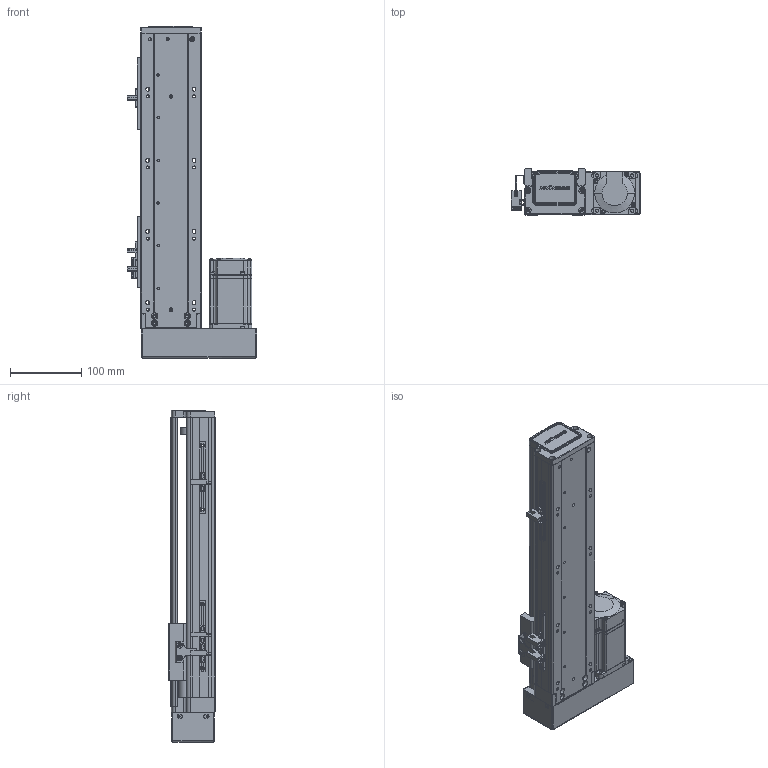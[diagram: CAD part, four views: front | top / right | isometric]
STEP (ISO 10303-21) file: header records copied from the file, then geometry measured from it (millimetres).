
FILE_DESCRIPTION (( 'STEP AP203' ), '1' );
FILE_NAME ('RY80-L1620-300-LK.SLDASM_250.step', '2021-02-20T07:16:37', ( '盈信电脑' ), ( '东莞市道滘镇水果街19号' ), 'SwSTEP 2.0', 'SolidWorks 2012', '' );
FILE_SCHEMA (( 'CONFIG_CONTROL_DESIGN' ));
Length unit declared in the file: millimetre
Products named in the file (15): T倰羞; RY80俋离覜茼え; RY80-L1620-300-LK.SLDASM_250; 滅袉蝶18-24; RY80酘莞萇儂假蚾啣; RY80酘殏俋欶; 覜茼ん672; 滅袉蝶18-10; 侂狟200W萇儂; RY80转接电机端支撑座; 1; RY80-300蛌諉倰第奻裔啣-LK_250; RY80-300蛌諉倰第菁釱-LK_250; RY80綴裔啣; RY80臏賑輸
Assembly tree (17 placements, depth 3):
  RY80-L1620-300-LK.SLDASM_250
    RY80-300蛌諉倰第菁釱-LK_250
    RY80臏賑輸
    RY80-300蛌諉倰第奻裔啣-LK_250
    RY80綴裔啣
    滅袉蝶18-10
    RY80转接电机端支撑座
    侂狟200W萇儂
      1
    RY80酘莞萇儂假蚾啣
    RY80酘殏俋欶
    覜茼ん672  x3
    T倰羞  x2
    RY80俋离覜茼え
    滅袉蝶18-24
Bounding box: 181.7 x 65 x 467 mm (x, y, z)
Volume: 1175116.7 mm3; surface area: 435420.6 mm2
Topology: 16 solids, 16 shells, 2070 faces, 5669 edges, 3669 vertices
Faces by surface type: plane 1155, cylinder 717, cone 136, bspline 62
Entity records: 64593 total; most frequent: CARTESIAN_POINT 15851, ORIENTED_EDGE 10026, DIRECTION 9450, EDGE_CURVE 5013, VERTEX_POINT 3285, LINE 3202, VECTOR 3202, AXIS2_PLACEMENT_3D 3124
